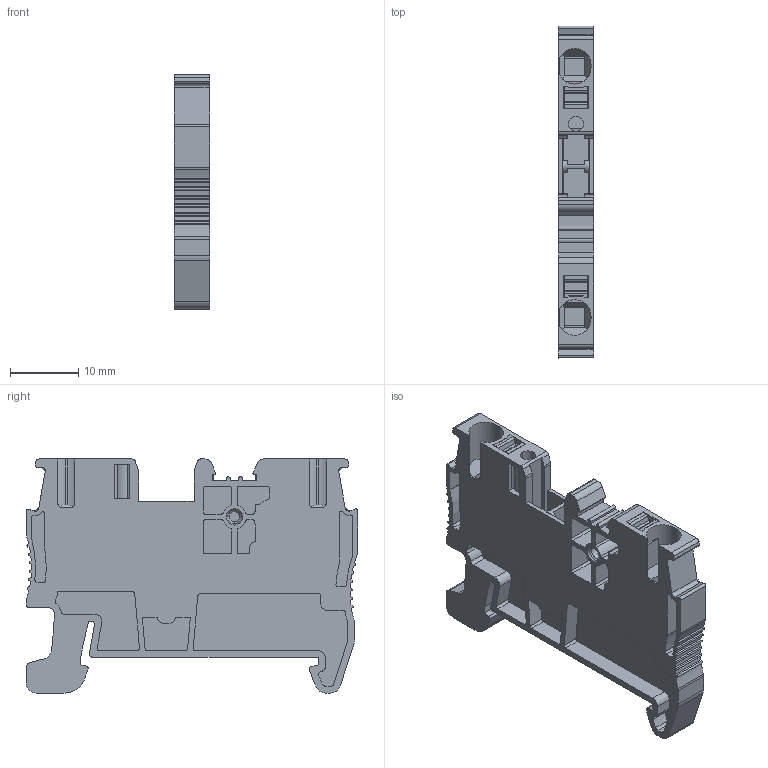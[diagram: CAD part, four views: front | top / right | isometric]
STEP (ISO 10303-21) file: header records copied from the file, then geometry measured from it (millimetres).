
FILE_DESCRIPTION(('Open CASCADE Model'),'2;1');
FILE_NAME('Open CASCADE Shape Model','2022-10-26T17:05:34',('Author'),( 'Open CASCADE'),'Open CASCADE STEP processor 6.5','Open CASCADE 6.5' ,'Unknown');
FILE_SCHEMA(('AUTOMOTIVE_DESIGN { 1 0 10303 214 1 1 1 1 }'));
Length unit declared in the file: millimetre
Products named in the file (1342): CADSOFTTOOLS 1; CADSOFTTOOLS 1.1; CADSOFTTOOLS 1.2; CADSOFTTOOLS 1.3; CADSOFTTOOLS 1.4; CADSOFTTOOLS 1.5; CADSOFTTOOLS 1.6; CADSOFTTOOLS 1.7; CADSOFTTOOLS 1.8; CADSOFTTOOLS 1.9; CADSOFTTOOLS 1.10; CADSOFTTOOLS 1.11; CADSOFTTOOLS 1.12; CADSOFTTOOLS 1.13; CADSOFTTOOLS 1.14; CADSOFTTOOLS 1.15; CADSOFTTOOLS 1.16; CADSOFTTOOLS 1.17; CADSOFTTOOLS 1.18; CADSOFTTOOLS 1.19; CADSOFTTOOLS 1.20; CADSOFTTOOLS 1.21; CADSOFTTOOLS 1.22; CADSOFTTOOLS 1.23; CADSOFTTOOLS 1.24; CADSOFTTOOLS 1.25; CADSOFTTOOLS 1.26; CADSOFTTOOLS 1.27; CADSOFTTOOLS 1.28; CADSOFTTOOLS 1.29; CADSOFTTOOLS 1.30; CADSOFTTOOLS 1.31; CADSOFTTOOLS 1.32; CADSOFTTOOLS 1.33; CADSOFTTOOLS 1.34; CADSOFTTOOLS 1.35; CADSOFTTOOLS 1.36; CADSOFTTOOLS 1.37; CADSOFTTOOLS 1.38; CADSOFTTOOLS 1.39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
Assembly tree (1341 placements, depth 2):
  CADSOFTTOOLS 1
    CADSOFTTOOLS 1.1
    CADSOFTTOOLS 1.2
    CADSOFTTOOLS 1.3
    CADSOFTTOOLS 1.4
    CADSOFTTOOLS 1.5
    CADSOFTTOOLS 1.6
    CADSOFTTOOLS 1.7
    CADSOFTTOOLS 1.8
    CADSOFTTOOLS 1.9
    CADSOFTTOOLS 1.10
    CADSOFTTOOLS 1.11
    CADSOFTTOOLS 1.12
    CADSOFTTOOLS 1.13
    CADSOFTTOOLS 1.14
    CADSOFTTOOLS 1.15
    CADSOFTTOOLS 1.16
    CADSOFTTOOLS 1.17
    CADSOFTTOOLS 1.18
    CADSOFTTOOLS 1.19
    CADSOFTTOOLS 1.20
    CADSOFTTOOLS 1.21
    CADSOFTTOOLS 1.22
    CADSOFTTOOLS 1.23
    CADSOFTTOOLS 1.24
    CADSOFTTOOLS 1.25
    CADSOFTTOOLS 1.26
    CADSOFTTOOLS 1.27
    CADSOFTTOOLS 1.28
    CADSOFTTOOLS 1.29
    CADSOFTTOOLS 1.30
    CADSOFTTOOLS 1.31
    CADSOFTTOOLS 1.32
    CADSOFTTOOLS 1.33
    CADSOFTTOOLS 1.34
    CADSOFTTOOLS 1.35
    CADSOFTTOOLS 1.36
    CADSOFTTOOLS 1.37
    CADSOFTTOOLS 1.38
    CADSOFTTOOLS 1.39
    CADSOFTTOOLS 1.40
    CADSOFTTOOLS 1.41
    CADSOFTTOOLS 1.42
    CADSOFTTOOLS 1.43
    CADSOFTTOOLS 1.44
    CADSOFTTOOLS 1.45
    CADSOFTTOOLS 1.46
    CADSOFTTOOLS 1.47
    CADSOFTTOOLS 1.48
    CADSOFTTOOLS 1.49
    CADSOFTTOOLS 1.50
    CADSOFTTOOLS 1.51
    CADSOFTTOOLS 1.52
    CADSOFTTOOLS 1.53
    CADSOFTTOOLS 1.54
    CADSOFTTOOLS 1.55
    CADSOFTTOOLS 1.56
    CADSOFTTOOLS 1.57
    CADSOFTTOOLS 1.58
    CADSOFTTOOLS 1.59
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Bounding box: 5.2 x 48.5 x 34.2 mm (x, y, z)
Surface area: 5230.9 mm2 (no closed solid volume)
Topology: 0 solids, 1341 shells, 1341 faces, 7842 edges, 7842 vertices
Faces by surface type: plane 1053, cylinder 232, extrusion 49, cone 6, bspline 1
Entity records: 164456 total; most frequent: CARTESIAN_POINT 38065, DIRECTION 20306, VECTOR 12461, LINE 12412, ORIENTED_EDGE 7842, EDGE_CURVE 7842, VERTEX_POINT 7842, SURFACE_CURVE 7842
